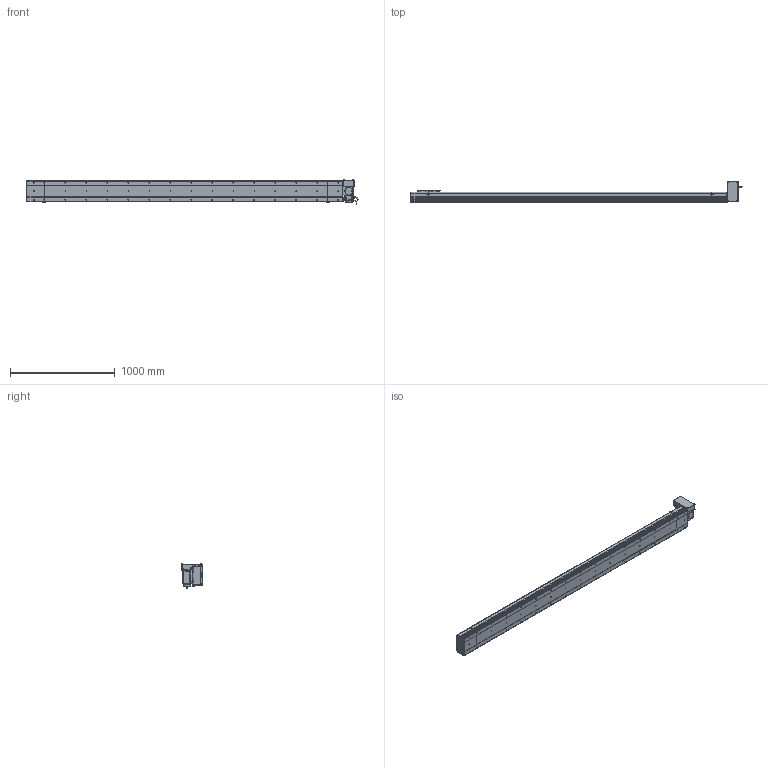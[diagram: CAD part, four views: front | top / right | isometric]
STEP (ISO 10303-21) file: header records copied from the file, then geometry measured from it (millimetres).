
FILE_DESCRIPTION (( 'STEP AP214' ), '1' );
FILE_NAME ('D20 CBH LT S2700.STEP', '2010-06-30T10:26:33', ( 'Conseil Régional Haute-Normandie' ), ( 'Conseil Régional Haute-Normandie' ), 'SwSTEP 2.0', 'SolidWorks 2010', '' );
FILE_SCHEMA (( 'AUTOMOTIVE_DESIGN' ));
Length unit declared in the file: millimetre
Products named in the file (31): corps 90BLDC125A-640; Head LT_Default; Plaque De Serrage D20 LT_Default; vis M5 L15_Default; Couvercle LT_Default; Corp Tail D20 LT_Default; Plaque de Bout Head D20 LT_Default; avant 90BLDC125A-640; Support moteur LT_Default; Rondelle Cache D20 LT_Default; codeur 90BLDC125-640; Moteur motionking 90BLDC125A-640; Plaque De Serrage D20_Default; Corp D20 S2700_Default; Glissiere_Default; vis M5 L47_Default; vis M5 L30_Default; Chariot D20_Default; Tail D20+100_Default; Couvercle S2700_Default; Plaque de Bout Tail D20_Default; Couvercle_Default; Corp Tail D20+100_Default; Cache Support Moteur LT_Default; Conecteur_Default; ecrou_Default; Conecteur2_Default; Support Chariot D20_Default; Corp S2700_Default; D20 CBH LT S2700
Assembly tree (66 placements, depth 4):
  D20 CBH LT S2700
    Tail D20+100_Default
      Plaque de Bout Tail D20_Default
      vis M5 L15_Default  x6
      Plaque De Serrage D20_Default
      Corp Tail D20+100_Default
      Couvercle_Default
    Head LT_Default
      Plaque de Bout Head D20 LT_Default
      Plaque De Serrage D20 LT_Default
      ecrou_Default  x4
      vis M5 L15_Default  x12
      vis M5 L30_Default  x4
      Cache Support Moteur LT_Default
      Support moteur LT_Default
      Rondelle Cache D20 LT_Default  x3
      Couvercle LT_Default
      vis M5 L47_Default  x4
      Moteur motionking 90BLDC125A-640
        codeur 90BLDC125-640
        Conecteur_Default
        Conecteur2_Default
        corps 90BLDC125A-640
        avant 90BLDC125A-640
      Corp Tail D20 LT_Default
    Chariot D20_Default
      vis M5 L15_Default  x8
      Glissiere_Default
      Chariot D20_Default
      Support Chariot D20_Default
    Corp D20 S2700_Default
      Couvercle S2700_Default
      Corp S2700_Default
Bounding box: 3163.45 x 202.5 x 229.7 mm (x, y, z)
Volume: 21268951.1 mm3; surface area: 4120733.3 mm2
Topology: 103 solids, 103 shells, 3822 faces, 9566 edges, 6220 vertices
Faces by surface type: plane 2113, bspline 806, cylinder 740, torus 91, cone 68, sphere 4
Entity records: 161998 total; most frequent: CARTESIAN_POINT 83452, ORIENTED_EDGE 15600, DIRECTION 11880, EDGE_CURVE 7800, VERTEX_POINT 5164, VECTOR 4988, LINE 4988, AXIS2_PLACEMENT_3D 3446
